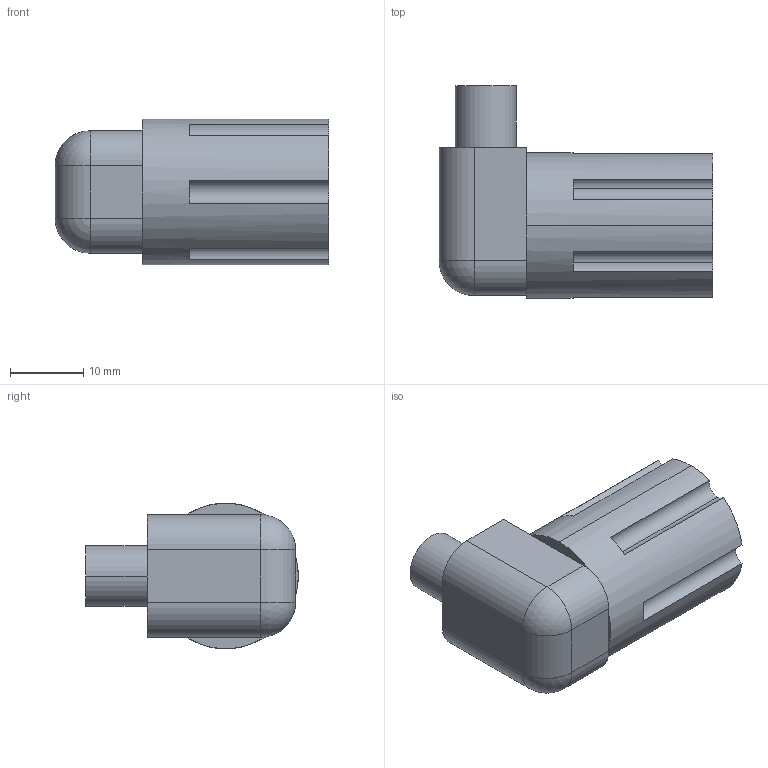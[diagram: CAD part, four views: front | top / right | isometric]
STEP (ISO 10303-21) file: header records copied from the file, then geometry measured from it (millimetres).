
FILE_DESCRIPTION (( 'STEP AP214' ), '1' );
FILE_NAME ('fitting-elbow-nut-assembly.STEP', '2012-10-26T20:54:33', ( '' ), ( '' ), 'SwSTEP 2.0', 'SolidWorks 2012', '' );
FILE_SCHEMA (( 'AUTOMOTIVE_DESIGN' ));
Length unit declared in the file: inch
Products named in the file (3): fitting-elbow-nut-assembly; 6070-TE-0001; 6030-TE-0001
Assembly tree (2 placements, depth 2):
  fitting-elbow-nut-assembly
    6070-TE-0001
    6030-TE-0001
Bounding box: 37.29 x 28.96 x 19.81 mm (x, y, z)
Volume: 10080.7 mm3; surface area: 5529.5 mm2
Topology: 2 solids, 2 shells, 60 faces, 141 edges, 89 vertices
Faces by surface type: cylinder 31, plane 21, cone 6, sphere 2
Entity records: 1906 total; most frequent: DIRECTION 345, CARTESIAN_POINT 305, ORIENTED_EDGE 278, AXIS2_PLACEMENT_3D 145, EDGE_CURVE 139, VERTEX_POINT 89, CIRCLE 80, EDGE_LOOP 70
